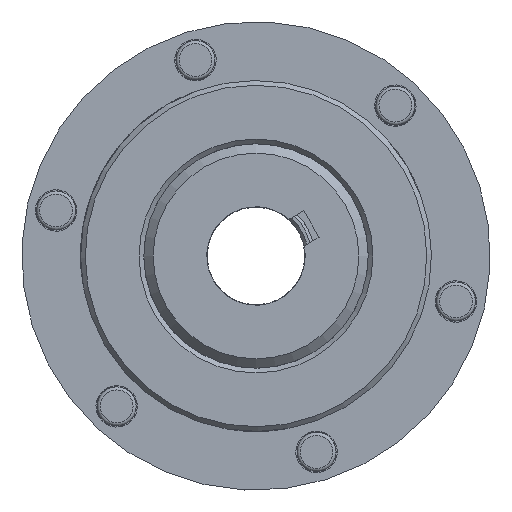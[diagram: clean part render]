
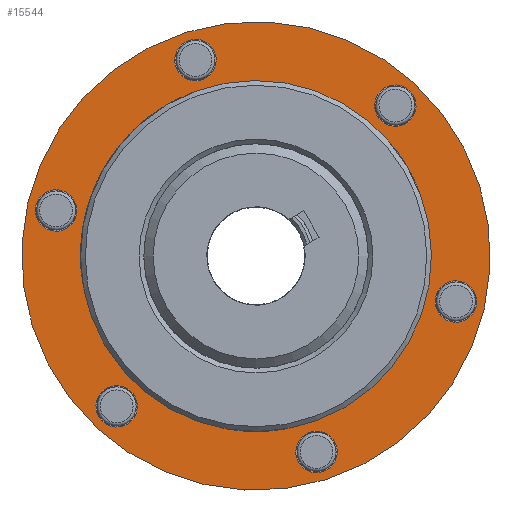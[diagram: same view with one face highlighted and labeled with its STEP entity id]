
A CAD part, front view. The second image highlights one B-rep face of the part: STEP entity #15544.
In plain terms, the highlighted planar face has unit normal (0, -1, 0).
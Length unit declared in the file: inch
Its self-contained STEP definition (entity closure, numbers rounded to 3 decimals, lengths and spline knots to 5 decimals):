
#15316=CARTESIAN_POINT('',(1.20291,-0.03,-0.5415));
#15317=VERTEX_POINT('',#15316);
#15318=CARTESIAN_POINT('',(1.13666,-0.03,-0.65625));
#15319=DIRECTION('',(0.0,1.,0.0));
#15320=DIRECTION('',(-0.5,0.0,-0.866));
#15321=AXIS2_PLACEMENT_3D('',#15318,#15319,#15320);
#15322=CIRCLE('',#15321,0.1325);
#15323=EDGE_CURVE('',#15317,#15317,#15322,.T.);
#15344=CARTESIAN_POINT('',(1.07041,-0.03,0.771));
#15345=VERTEX_POINT('',#15344);
#15346=CARTESIAN_POINT('',(1.13666,-0.03,0.65625));
#15347=DIRECTION('',(0.0,1.0,0.0));
#15348=DIRECTION('',(0.5,0.0,-0.866));
#15349=AXIS2_PLACEMENT_3D('',#15346,#15347,#15348);
#15350=CIRCLE('',#15349,0.1325);
#15351=EDGE_CURVE('',#15345,#15345,#15350,.T.);
#15372=CARTESIAN_POINT('',(-0.1325,-0.03,1.3125));
#15373=VERTEX_POINT('',#15372);
#15374=CARTESIAN_POINT('',(0.,-0.03,1.3125));
#15375=DIRECTION('',(0.0,1.0,0.0));
#15376=DIRECTION('',(1.0,0.0,0.0));
#15377=AXIS2_PLACEMENT_3D('',#15374,#15375,#15376);
#15378=CIRCLE('',#15377,0.1325);
#15379=EDGE_CURVE('',#15373,#15373,#15378,.T.);
#15400=CARTESIAN_POINT('',(-1.20291,-0.03,0.5415));
#15401=VERTEX_POINT('',#15400);
#15402=CARTESIAN_POINT('',(-1.13666,-0.03,0.65625));
#15403=DIRECTION('',(0.0,1.,0.0));
#15404=DIRECTION('',(0.5,0.0,0.866));
#15405=AXIS2_PLACEMENT_3D('',#15402,#15403,#15404);
#15406=CIRCLE('',#15405,0.1325);
#15407=EDGE_CURVE('',#15401,#15401,#15406,.T.);
#15428=CARTESIAN_POINT('',(-1.07041,-0.03,-0.771));
#15429=VERTEX_POINT('',#15428);
#15430=CARTESIAN_POINT('',(-1.13666,-0.03,-0.65625));
#15431=DIRECTION('',(0.0,1.0,0.0));
#15432=DIRECTION('',(-0.5,0.0,0.866));
#15433=AXIS2_PLACEMENT_3D('',#15430,#15431,#15432);
#15434=CIRCLE('',#15433,0.1325);
#15435=EDGE_CURVE('',#15429,#15429,#15434,.T.);
#15456=CARTESIAN_POINT('',(0.1325,-0.03,-1.3125));
#15457=VERTEX_POINT('',#15456);
#15458=CARTESIAN_POINT('',(0.,-0.03,-1.3125));
#15459=DIRECTION('',(0.0,1.0,0.0));
#15460=DIRECTION('',(-1.0,0.0,0.0));
#15461=AXIS2_PLACEMENT_3D('',#15458,#15459,#15460);
#15462=CIRCLE('',#15461,0.1325);
#15463=EDGE_CURVE('',#15457,#15457,#15462,.T.);
#15484=CARTESIAN_POINT('',(1.5,-0.03,0.0));
#15485=VERTEX_POINT('',#15484);
#15486=CARTESIAN_POINT('',(0.,-0.03,0.0));
#15487=DIRECTION('',(0.0,-1.0,0.0));
#15488=DIRECTION('',(1.0,0.0,0.0));
#15489=AXIS2_PLACEMENT_3D('',#15486,#15487,#15488);
#15490=CIRCLE('',#15489,1.5);
#15491=EDGE_CURVE('',#15485,#15485,#15490,.T.);
#15507=CARTESIAN_POINT('',(1.125,-0.03,0.0));
#15508=DIRECTION('',(0.0,-1.0,0.0));
#15509=DIRECTION('',(0.0,0.0,-1.0));
#15510=AXIS2_PLACEMENT_3D('',#15507,#15508,#15509);
#15511=PLANE('',#15510);
#15512=ORIENTED_EDGE('',*,*,#15491,.T.);
#15513=EDGE_LOOP('',(#15512));
#15514=FACE_OUTER_BOUND('',#15513,.T.);
#15515=ORIENTED_EDGE('',*,*,#15323,.T.);
#15516=EDGE_LOOP('',(#15515));
#15517=FACE_BOUND('',#15516,.T.);
#15518=ORIENTED_EDGE('',*,*,#15351,.T.);
#15519=EDGE_LOOP('',(#15518));
#15520=FACE_BOUND('',#15519,.T.);
#15521=ORIENTED_EDGE('',*,*,#15379,.T.);
#15522=EDGE_LOOP('',(#15521));
#15523=FACE_BOUND('',#15522,.T.);
#15524=ORIENTED_EDGE('',*,*,#15407,.T.);
#15525=EDGE_LOOP('',(#15524));
#15526=FACE_BOUND('',#15525,.T.);
#15527=ORIENTED_EDGE('',*,*,#15435,.T.);
#15528=EDGE_LOOP('',(#15527));
#15529=FACE_BOUND('',#15528,.T.);
#15530=ORIENTED_EDGE('',*,*,#15463,.T.);
#15531=EDGE_LOOP('',(#15530));
#15532=FACE_BOUND('',#15531,.T.);
#15533=CARTESIAN_POINT('',(0.75,-0.03,0.0));
#15534=VERTEX_POINT('',#15533);
#15535=CARTESIAN_POINT('',(0.,-0.03,0.0));
#15536=DIRECTION('',(0.0,-1.0,0.0));
#15537=DIRECTION('',(1.0,0.0,0.0));
#15538=AXIS2_PLACEMENT_3D('',#15535,#15536,#15537);
#15539=CIRCLE('',#15538,0.75);
#15540=EDGE_CURVE('',#15534,#15534,#15539,.T.);
#15541=ORIENTED_EDGE('',*,*,#15540,.F.);
#15542=EDGE_LOOP('',(#15541));
#15543=FACE_BOUND('',#15542,.T.);
#15544=ADVANCED_FACE('',(#15514,#15517,#15520,#15523,#15526,#15529,#15532,#15543),#15511,.T.);
